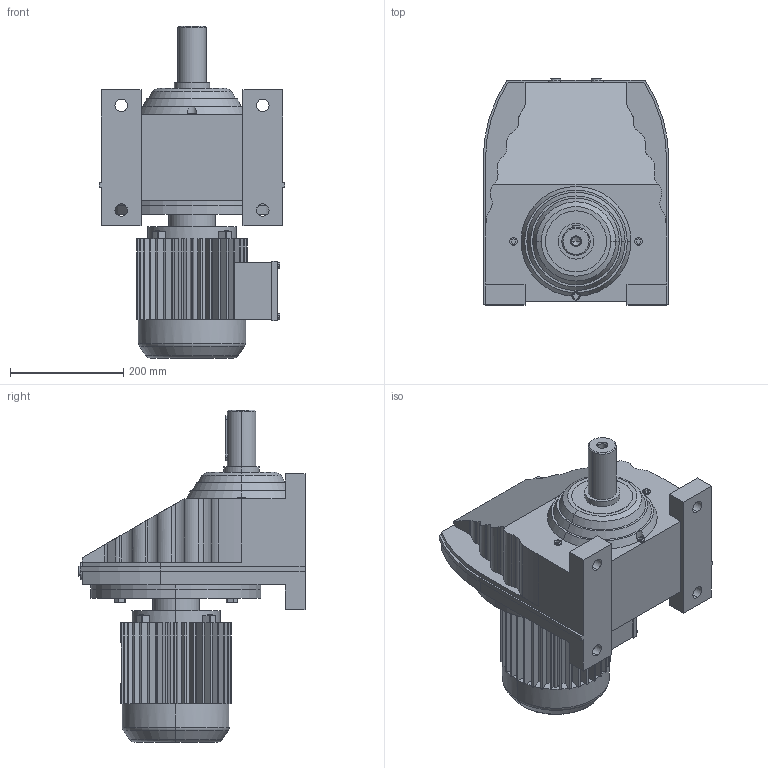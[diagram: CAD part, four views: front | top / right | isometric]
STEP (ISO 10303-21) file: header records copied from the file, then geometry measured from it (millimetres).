
FILE_DESCRIPTION(('Open CASCADE Model'),'2;1');
FILE_NAME('Open CASCADE Shape Model','2021-07-14T09:53:05',('Author'),( 'Open CASCADE'),'Open CASCADE STEP processor 6.3','Open CASCADE 6.3' ,'Unknown');
FILE_SCHEMA(('AUTOMOTIVE_DESIGN_CC2 { 1 2 10303 214 -1 1 5 4 }'));
Length unit declared in the file: millimetre
Products named in the file (3): 1_RX97-Y90S; RX57‵107_97.step; 萇儂_300_Y90S.step
Assembly tree (2 placements, depth 2):
  1_RX97-Y90S
    RX57‵107_97.step
    萇儂_300_Y90S.step
Bounding box: 328 x 399 x 586 mm (x, y, z)
Volume: 24555224.8 mm3; surface area: 1041751.9 mm2
Topology: 2 solids, 2 shells, 630 faces, 1656 edges, 1069 vertices
Faces by surface type: plane 425, cylinder 184, cone 17, torus 4
Entity records: 42762 total; most frequent: CARTESIAN_POINT 11517, DIRECTION 5383, ORIENTED_EDGE 3308, PCURVE 3308, DEFINITIONAL_REPRESENTATION 3308, LINE 2836, VECTOR 2836, EDGE_CURVE 1654
